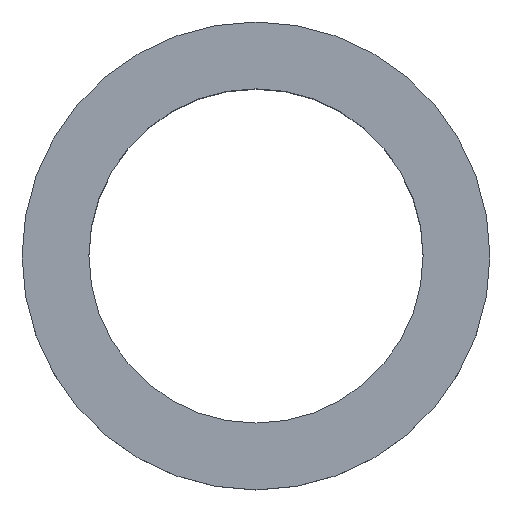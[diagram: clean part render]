
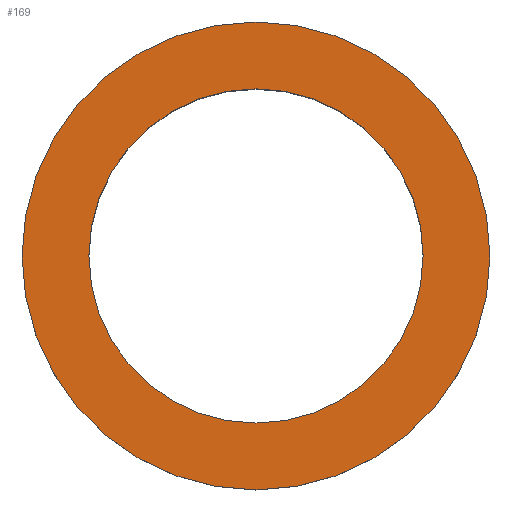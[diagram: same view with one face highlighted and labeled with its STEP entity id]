
A CAD part, top view. The second image highlights one B-rep face of the part: STEP entity #169.
In plain terms, the highlighted planar face has unit normal (0, 0, 1).
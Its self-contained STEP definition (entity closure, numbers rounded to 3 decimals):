
#169=ADVANCED_FACE('',(#193,#194),#190,.T.);
#190=PLANE('',#402);
#193=FACE_BOUND('',#199,.T.);
#194=FACE_BOUND('',#200,.T.);
#199=EDGE_LOOP('',(#223,#224));
#200=EDGE_LOOP('',(#225,#226));
#223=ORIENTED_EDGE('',*,*,#331,.T.);
#224=ORIENTED_EDGE('',*,*,#332,.T.);
#225=ORIENTED_EDGE('',*,*,#333,.F.);
#226=ORIENTED_EDGE('',*,*,#334,.F.);
#307=VERTEX_POINT('',#555);
#308=VERTEX_POINT('',#556);
#309=VERTEX_POINT('',#559);
#310=VERTEX_POINT('',#560);
#331=EDGE_CURVE('',#307,#308,#373,.T.);
#332=EDGE_CURVE('',#308,#307,#374,.T.);
#333=EDGE_CURVE('',#309,#310,#375,.T.);
#334=EDGE_CURVE('',#310,#309,#376,.T.);
#373=CIRCLE('',#398,17.5);
#374=CIRCLE('',#399,17.5);
#375=CIRCLE('',#400,12.5);
#376=CIRCLE('',#401,12.5);
#398=AXIS2_PLACEMENT_3D('',#554,#445,#446);
#399=AXIS2_PLACEMENT_3D('',#557,#447,#448);
#400=AXIS2_PLACEMENT_3D('',#558,#449,#450);
#401=AXIS2_PLACEMENT_3D('',#561,#451,#452);
#402=AXIS2_PLACEMENT_3D('',#562,#453,#454);
#445=DIRECTION('',(0.,0.,1.));
#446=DIRECTION('',(0.,1.,0.));
#447=DIRECTION('',(0.,0.,1.));
#448=DIRECTION('',(0.,-1.,0.));
#449=DIRECTION('',(0.,0.,1.));
#450=DIRECTION('',(0.,-1.,0.));
#451=DIRECTION('',(0.,0.,1.));
#452=DIRECTION('',(0.,1.,0.));
#453=DIRECTION('',(0.,0.,1.));
#454=DIRECTION('',(0.,1.,0.));
#554=CARTESIAN_POINT('',(0.,0.,3.));
#555=CARTESIAN_POINT('',(-17.5,0.,3.));
#556=CARTESIAN_POINT('',(17.5,0.,3.));
#557=CARTESIAN_POINT('',(0.,0.,3.));
#558=CARTESIAN_POINT('',(0.,0.,3.));
#559=CARTESIAN_POINT('',(12.5,0.,3.));
#560=CARTESIAN_POINT('',(-12.5,0.,3.));
#561=CARTESIAN_POINT('',(0.,0.,3.));
#562=CARTESIAN_POINT('',(0.,0.,3.));
